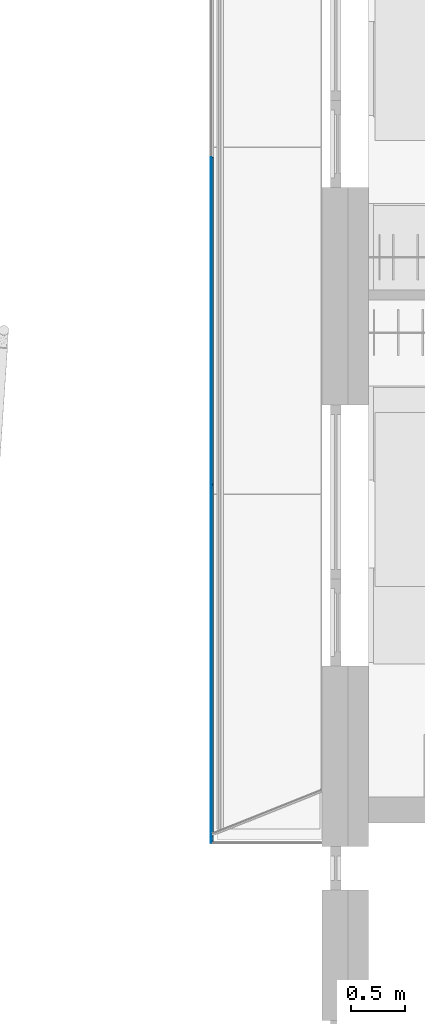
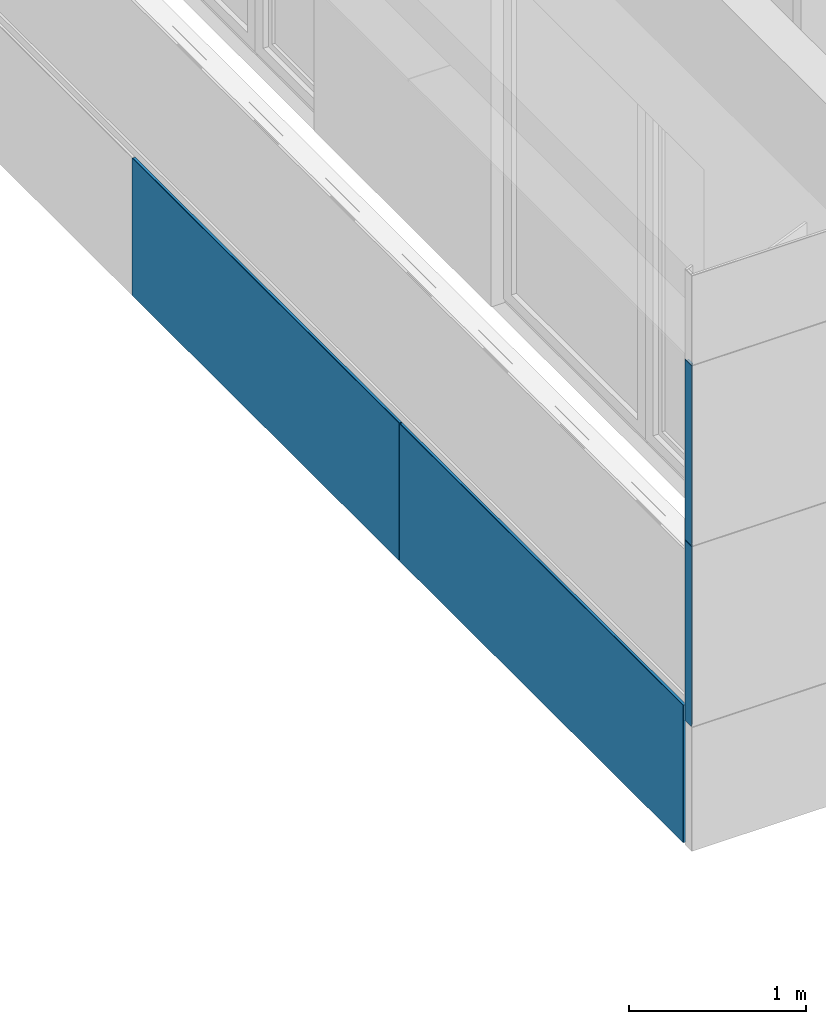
# One storey, part 8 of 57: 8 building element parts, 2 elements without a shape of their own.
"""IFC2X3 building model written with IfcOpenShell, lengths in millimetres."""

from ifc_helpers import new_model, entity, si_unit, converted_unit, direction, frame, frame_2d, origin, place, context, subcontext, project, spatial, polyline, rectangle, outline, extrude, material, type_object, element, aggregate, save


model = new_model("IFC2X3")

# Units and contexts
model_context = context("Model", 3, precision=0.01, world=origin(), true_north=direction((6.123233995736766e-17, 1.0)))
plan_context = context("Plan", 3, precision=0.01, world=origin(), true_north=direction((6.123233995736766e-17, 1.0)))
body_context = subcontext(model_context, "Body", "Model", "MODEL_VIEW")
ifc_project = project(units=[si_unit("LENGTHUNIT", "METRE", prefix="MILLI"), converted_unit("PLANEANGLEUNIT", "DEGREE", entity("IfcPlaneAngleMeasure", 0.017453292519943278), si_unit("PLANEANGLEUNIT", "RADIAN"), dimensions=[0, 0, 0, 0, 0, 0, 0]), si_unit("AREAUNIT", "SQUARE_METRE")], contexts=[model_context, plan_context])

# Site, building, storey
site_placement = place(None, origin())
site = spatial("IfcSite", under=ifc_project, at=site_placement, Name="Default", CompositionType="ELEMENT")
building_placement = place(site_placement, origin())
building = spatial("IfcBuilding", under=site, at=building_placement, CompositionType="ELEMENT")
storey_placement = place(building_placement, frame((0.0, 0.0, 12811.000000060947)))
storey = spatial("IfcBuildingStorey", under=building, at=storey_placement, Name="5K", CompositionType="ELEMENT", Elevation=12811.000000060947)

# Wall, building element parts
wall_type = type_object("IfcWallType", Name="Basic Wall:VS-komposiit", PredefinedType="STANDARD")
wall_1_placement = place(storey_placement, frame((-1441.0, 6289.203543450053, -946.0), z_axis=(0.0, 0.0, 1.0), x_axis=(0.0, -1.0, 0.0)))
wall_1 = element("IfcWall", 1, at=wall_1_placement, inside=storey, type_object=wall_type, Name="Basic Wall:VS-komposiit", ObjectType="Basic Wall:VS-komposiit")
ifc_material_1 = material(Name="_K. Õhk. Roov. Fassaadikatte alusroov. Horisontaalne. 25 mm")
building_element_part_1_placement = place(wall_1_placement, origin())
building_element_part_1 = element("IfcBuildingElementPart", 2, at=building_element_part_1_placement, material=ifc_material_1, Name="Part", context=body_context, shape_type="SweptSolid", body=[
    extrude(outline(polyline([(-20.80942594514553, -8.0), (24.009852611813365, -8.0), (24.00985261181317, 8.0), (-27.210279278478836, 8.0), (-20.80942594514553, -8.0)])), frame((27.21027927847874, 2.0, 856.0)), (0.0, 0.0, 1.0), 1240.0000000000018),
])
building_element_part_2_placement = place(wall_1_placement, origin())
building_element_part_2 = element("IfcBuildingElementPart", 3, at=building_element_part_2_placement, material=ifc_material_1, Name="Part", context=body_context, shape_type="SweptSolid", body=[
    extrude(outline(polyline([(-20.809425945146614, -8.0), (24.009852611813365, -8.0), (24.00985261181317, 8.0), (-27.210279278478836, 8.0), (-20.809425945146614, -8.0)])), frame((27.21027927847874, 2.0, 2101.0)), (0.0, 0.0, 1.0), 1240.0000000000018),
])
ifc_material_2 = material(Name="_K. Välisviimistlus. Alumiinium-komposiitplaat")
building_element_part_3_placement = place(wall_1_placement, origin())
building_element_part_3 = element("IfcBuildingElementPart", 4, at=building_element_part_3_placement, material=ifc_material_2, Name="Part", context=body_context, shape_type="SweptSolid", body=[
    extrude(outline(polyline([(-37.82590143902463, -2.0), (38.62600810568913, -2.0), (38.6260081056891, 2.0), (-39.42611477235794, 2.0), (-37.82590143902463, -2.0)])), frame((28.594123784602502, -8.0, 856.0)), (0.0, 0.0, 1.0), 1240.0000000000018),
])
building_element_part_4_placement = place(wall_1_placement, origin())
building_element_part_4 = element("IfcBuildingElementPart", 5, at=building_element_part_4_placement, material=ifc_material_2, Name="Part", context=body_context, shape_type="SweptSolid", body=[
    extrude(outline(polyline([(-37.82590143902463, -2.0), (38.62600810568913, -2.0), (38.6260081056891, 2.0), (-39.42611477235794, 2.0), (-37.82590143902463, -2.0)])), frame((28.594123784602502, -8.0, 2101.0)), (0.0, 0.0, 1.0), 1240.0000000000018),
])
aggregate(wall_1, [building_element_part_1, building_element_part_2, building_element_part_3, building_element_part_4])

wall_2_placement = place(storey_placement, frame((-1441.882865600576, 15734.235401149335, -946.0), z_axis=(0.0, 0.0, 1.0), x_axis=(0.0, -1.0, 0.0)))
wall_2 = element("IfcWall", 6, at=wall_2_placement, inside=storey, type_object=wall_type, Name="Basic Wall:VS-komposiit", ObjectType="Basic Wall:VS-komposiit")
building_element_part_5_placement = place(wall_2_placement, origin())
building_element_part_5 = element("IfcBuildingElementPart", 7, at=building_element_part_5_placement, material=ifc_material_2, Name="Part", context=body_context, shape_type="SweptSolid", body=[
    extrude(rectangle(XDim=3199.9999999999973, YDim=4.000000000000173, at=frame_2d((5.684341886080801e-13, 0.0), x_axis=(1.0, 0.0))), frame((7818.498119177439, -8.0, 0.0)), (0.0, 0.0, 1.0), 945.9999999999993),
])
building_element_part_6_placement = place(wall_2_placement, origin())
building_element_part_6 = element("IfcBuildingElementPart", 8, at=building_element_part_6_placement, material=ifc_material_1, Name="Part", context=body_context, shape_type="SweptSolid", body=[
    extrude(rectangle(XDim=3199.9999999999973, YDim=15.999999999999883, at=frame_2d((-5.684341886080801e-13, -1.354472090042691e-13), x_axis=(1.0, 0.0))), frame((7818.49811917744, 2.0, 0.0)), (0.0, 0.0, 1.0), 945.9999999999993),
])
building_element_part_7_placement = place(wall_2_placement, origin())
building_element_part_7 = element("IfcBuildingElementPart", 9, at=building_element_part_7_placement, material=ifc_material_1, Name="Part", context=body_context, shape_type="SweptSolid", body=[
    extrude(rectangle(XDim=3008.498119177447, YDim=15.999999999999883, at=frame_2d((-5.684341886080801e-13, -2.7045032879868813e-13), x_axis=(1.0, 0.0))), frame((4709.249059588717, 2.0, 0.0)), (0.0, 0.0, 1.0), 945.9999999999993),
])
building_element_part_8_placement = place(wall_2_placement, origin())
building_element_part_8 = element("IfcBuildingElementPart", 10, at=building_element_part_8_placement, material=ifc_material_2, Name="Part", context=body_context, shape_type="SweptSolid", body=[
    extrude(rectangle(XDim=3008.498119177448, YDim=4.000000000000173, at=frame_2d((-5.684341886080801e-13, -1.3533618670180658e-13), x_axis=(1.0, 0.0))), frame((4709.249059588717, -8.0, 0.0)), (0.0, 0.0, 1.0), 945.9999999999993),
])
aggregate(wall_2, [building_element_part_5, building_element_part_6, building_element_part_7, building_element_part_8])

save(model, "model.ifc")
